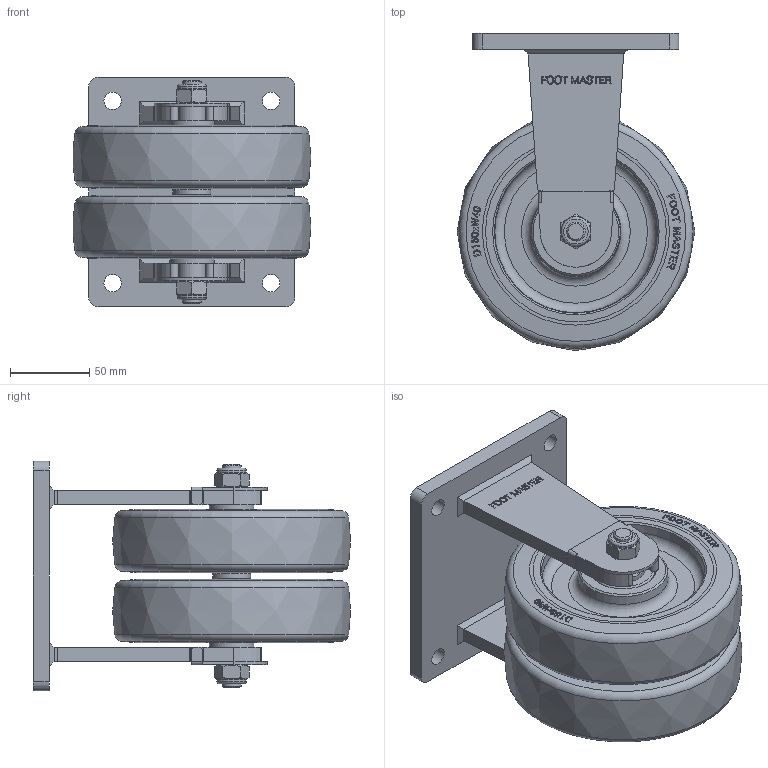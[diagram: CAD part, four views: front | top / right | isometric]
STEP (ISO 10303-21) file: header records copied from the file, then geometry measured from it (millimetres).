
FILE_DESCRIPTION(/* description */ (''),/* implementation_level */ '2;1');
FILE_NAME(/* name */ '\\192.168.10.38\지덕공유\1.기술연구소\1.도면\제품도면\1.양산품\27.AGVCASTER\AGV CASTER 125 150 SERIES_제품도면\3D\GXTD-150-ARF-HUD.stp',/* time_stamp */ '2026-07-23T09:48:30+09:00',/* author */ ('admin'),/* organization */ (''),/* preprocessor_version */ 'ST-DEVELOPER v18.1',/* originating_system */ 'Autodesk Inventor 2021',/* authorisation */ '');
FILE_SCHEMA (('CONFIG_CONTROL_DESIGN'));
Length unit declared in the file: millimetre
Products named in the file (1): GXTD-150-ARF-HUD_형상단순화
Bounding box: 149.86 x 200 x 145 mm (x, y, z)
Volume: 1418672.9 mm3; surface area: 196197.5 mm2
Topology: 1 solids, 1 shells, 1079 faces, 2935 edges, 1960 vertices
Faces by surface type: plane 594, bspline 328, cone 94, cylinder 43, torus 20
Full cylindrical faces by diameter (mm): 11 x4, 12 x2, 18.5 x2, 24 x1, 28 x2, 40 x4
Entity records: 39233 total; most frequent: CARTESIAN_POINT 14551, ORIENTED_EDGE 5870, DIRECTION 3457, EDGE_CURVE 2935, VERTEX_POINT 1960, LINE 1389, VECTOR 1389, EDGE_LOOP 1191
